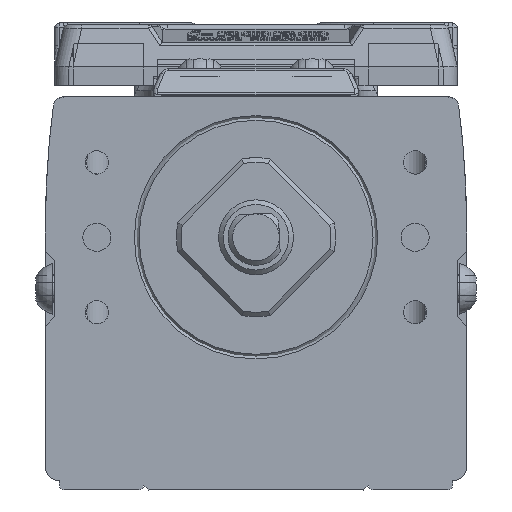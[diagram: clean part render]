
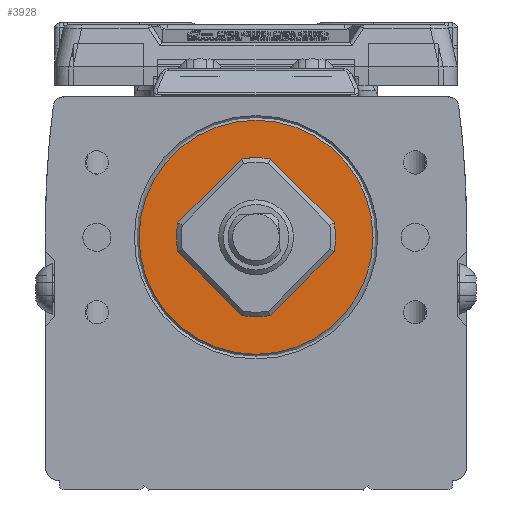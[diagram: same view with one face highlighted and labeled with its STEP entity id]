
A CAD part, left-side view. The second image highlights one B-rep face of the part: STEP entity #3928.
In plain terms, the highlighted planar face has unit normal (-1, 0, 0) as drawn and (0, 0, 1) by its records, which use the part's own axes.
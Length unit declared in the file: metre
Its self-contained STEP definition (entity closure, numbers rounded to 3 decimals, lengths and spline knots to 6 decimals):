
#3928=ADVANCED_FACE('',(#8117,#8118),#8119,.T.);
#8117=FACE_OUTER_BOUND('',#15148,.T.);
#8118=FACE_BOUND('',#15149,.T.);
#8119=PLANE('',#15150);
#15148=EDGE_LOOP('',(#25486));
#15149=EDGE_LOOP('',(#25487));
#15150=AXIS2_PLACEMENT_3D('',#25488,#25489,#25490);
#25486=ORIENTED_EDGE('',*,*,#29124,.T.);
#25487=ORIENTED_EDGE('',*,*,#32890,.F.);
#25488=CARTESIAN_POINT('',(0.000046,-0.005386,0.018));
#25489=DIRECTION('',(0.0,0.0,1.0));
#25490=DIRECTION('',(1.0,0.0,0.0));
#29124=EDGE_CURVE('',#34010,#34010,#34011,.T.);
#32890=EDGE_CURVE('',#39706,#39706,#39707,.T.);
#34010=VERTEX_POINT('',#41122);
#34011=CIRCLE('',#41123,0.0125);
#39706=VERTEX_POINT('',#49903);
#39707=CIRCLE('',#49904,0.004);
#41122=CARTESIAN_POINT('',(-0.0125,0.,0.018));
#41123=AXIS2_PLACEMENT_3D('',#51259,#51260,#51261);
#49903=CARTESIAN_POINT('',(0.004,0.0,0.018));
#49904=AXIS2_PLACEMENT_3D('',#55653,#55654,#55655);
#51259=CARTESIAN_POINT('',(0.0,0.,0.018));
#51260=DIRECTION('',(0.0,0.0,1.0));
#51261=DIRECTION('',(1.0,0.0,0.0));
#55653=CARTESIAN_POINT('',(0.0,0.0,0.018));
#55654=DIRECTION('',(0.0,0.0,1.0));
#55655=DIRECTION('',(-1.0,0.0,0.0));
